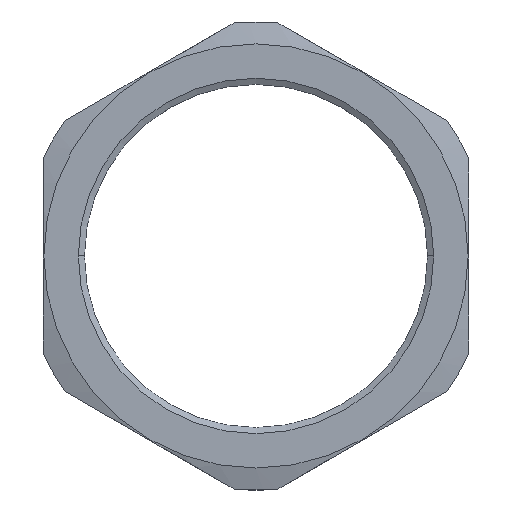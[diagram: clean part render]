
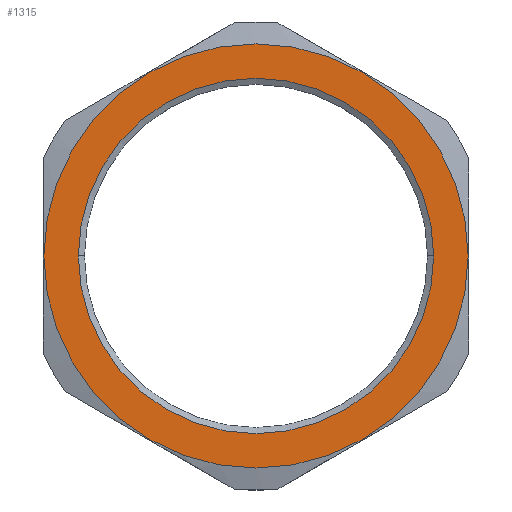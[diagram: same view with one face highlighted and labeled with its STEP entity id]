
A CAD part, top view. The second image highlights one B-rep face of the part: STEP entity #1315.
In plain terms, the highlighted planar face has unit normal (0, 0, 1).
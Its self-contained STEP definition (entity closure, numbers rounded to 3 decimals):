
#117 = DIRECTION ( 'NONE',  ( 1., 0., 0. ) ) ;
#118 = DIRECTION ( 'NONE',  ( 0., 0., 1. ) ) ;
#119 = CARTESIAN_POINT ( 'NONE',  ( 0., 0., 0. ) ) ;
#120 = AXIS2_PLACEMENT_3D ( 'NONE', #119, #118, #117 ) ;
#122 = CIRCLE ( 'NONE', #120, 29.9 ) ;
#144 = CIRCLE ( 'NONE', #211, 25.05 ) ;
#162 = DIRECTION ( 'NONE',  ( -1., 0., 0. ) ) ;
#163 = DIRECTION ( 'NONE',  ( 0., 0., -1. ) ) ;
#164 = CARTESIAN_POINT ( 'NONE',  ( 0., 0., 0. ) ) ;
#165 = AXIS2_PLACEMENT_3D ( 'NONE', #164, #163, #162 ) ;
#166 = PLANE ( 'NONE',  #165 ) ;
#168 = FACE_BOUND ( 'NONE', #1291, .T. ) ;
#205 = FACE_OUTER_BOUND ( 'NONE', #1254, .T. ) ;
#208 = DIRECTION ( 'NONE',  ( 1., 0., 0. ) ) ;
#209 = DIRECTION ( 'NONE',  ( 0., 0., 1. ) ) ;
#210 = CARTESIAN_POINT ( 'NONE',  ( 0., 0., 0. ) ) ;
#211 = AXIS2_PLACEMENT_3D ( 'NONE', #210, #209, #208 ) ;
#778 = DIRECTION ( 'NONE',  ( 1., 0., 0. ) ) ;
#779 = DIRECTION ( 'NONE',  ( 0., 0., 1. ) ) ;
#786 = CARTESIAN_POINT ( 'NONE',  ( 0., 0., 0. ) ) ;
#787 = AXIS2_PLACEMENT_3D ( 'NONE', #786, #779, #778 ) ;
#788 = CIRCLE ( 'NONE', #787, 29.9 ) ;
#818 = CARTESIAN_POINT ( 'NONE',  ( -25.05, 0., 0. ) ) ;
#820 = CARTESIAN_POINT ( 'NONE',  ( 25.05, 0., 0. ) ) ;
#821 = DIRECTION ( 'NONE',  ( 1., 0., 0. ) ) ;
#822 = DIRECTION ( 'NONE',  ( 0., 0., 1. ) ) ;
#823 = CARTESIAN_POINT ( 'NONE',  ( 0., 0., 0. ) ) ;
#824 = AXIS2_PLACEMENT_3D ( 'NONE', #823, #822, #821 ) ;
#825 = CIRCLE ( 'NONE', #824, 25.05 ) ;
#838 = CARTESIAN_POINT ( 'NONE',  ( 29.9, 0., 0. ) ) ;
#842 = CARTESIAN_POINT ( 'NONE',  ( -29.9, 0., 0. ) ) ;
#1247 = ORIENTED_EDGE ( 'NONE', *, *, #1248, .T. ) ;
#1248 = EDGE_CURVE ( 'NONE', #1710, #1709, #122, .T. ) ;
#1249 = ORIENTED_EDGE ( 'NONE', *, *, #1707, .T. ) ;
#1254 = EDGE_LOOP ( 'NONE', ( #1247, #1249 ) ) ;
#1291 = EDGE_LOOP ( 'NONE', ( #1292, #1294 ) ) ;
#1292 = ORIENTED_EDGE ( 'NONE', *, *, #1293, .F. ) ;
#1293 = EDGE_CURVE ( 'NONE', #1714, #1718, #144, .T. ) ;
#1294 = ORIENTED_EDGE ( 'NONE', *, *, #1713, .F. ) ;
#1315 = ADVANCED_FACE ( 'NONE', ( #205, #168 ), #166, .F. ) ;
#1707 = EDGE_CURVE ( 'NONE', #1709, #1710, #788, .T. ) ;
#1709 = VERTEX_POINT ( 'NONE', #838 ) ;
#1710 = VERTEX_POINT ( 'NONE', #842 ) ;
#1713 = EDGE_CURVE ( 'NONE', #1718, #1714, #825, .T. ) ;
#1714 = VERTEX_POINT ( 'NONE', #820 ) ;
#1718 = VERTEX_POINT ( 'NONE', #818 ) ;
